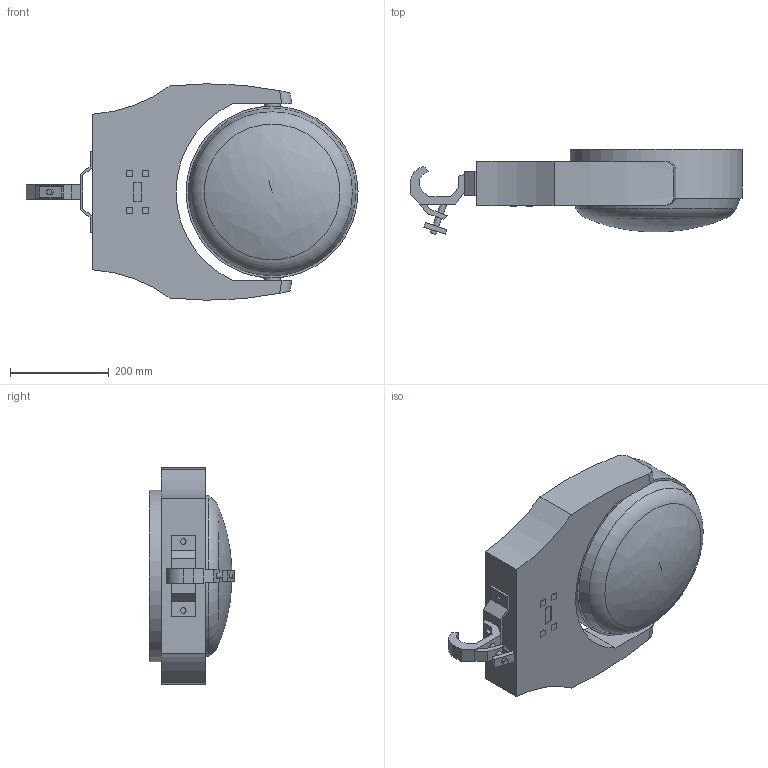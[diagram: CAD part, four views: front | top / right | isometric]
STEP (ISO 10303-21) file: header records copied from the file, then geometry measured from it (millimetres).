
FILE_DESCRIPTION( ( 'Unknown' ), '1' );
FILE_NAME( 'K:/ROBE-LED/28 Actor 12/2D_3D symbols/3D_Actor12.stp', 'Unknown', ( '*' ), ( '*' ), 'PSStep 15.0.49', 'SolidEdge', ' ' );
FILE_SCHEMA( ( 'AUTOMOTIVE_DESIGN { 1 0 10303 214 1 1 1 1 }' ) );
Length unit declared in the file: millimetre
Products named in the file (6): Omega_SlimClamp_90; Omega+SlimClamp; Clamp Doughty Slimline QT; Assem1; A12Rameno; A12Hlava
Assembly tree (5 placements, depth 3):
  Assem1
    A12Rameno
    A12Hlava
    Omega_SlimClamp_90
      Omega+SlimClamp
      Clamp Doughty Slimline QT
Bounding box: 673.9 x 173.24 x 439.28 mm (x, y, z)
Volume: 22053259.8 mm3; surface area: 759481.3 mm2
Topology: 4 solids, 4 shells, 108 faces, 265 edges, 178 vertices
Faces by surface type: plane 80, cylinder 25, bspline 1, torus 1, cone 1
Full cylindrical faces by diameter (mm): 11 x2, 12 x6, 13 x2, 32.4 x1, 33 x1, 320 x1, 349 x1
Entity records: 4222 total; most frequent: CARTESIAN_POINT 755, DIRECTION 510, ORIENTED_EDGE 478, EDGE_CURVE 239, LINE 186, VECTOR 186, VERTEX_POINT 170, AXIS2_PLACEMENT_3D 162
